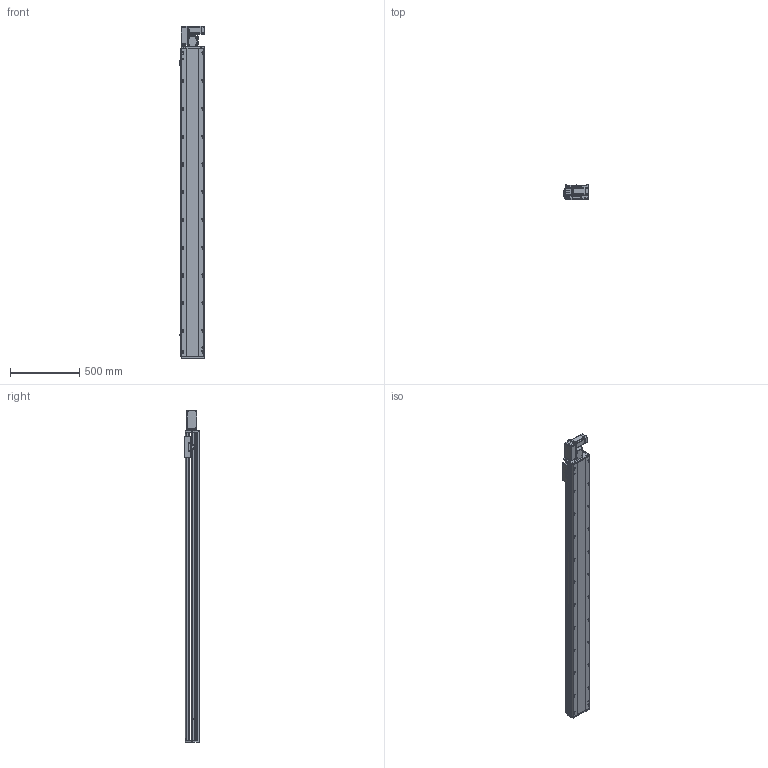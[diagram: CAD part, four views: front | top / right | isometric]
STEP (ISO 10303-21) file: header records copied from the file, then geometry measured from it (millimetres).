
FILE_DESCRIPTION (( 'STEP AP214' ), '1' );
FILE_NAME ('RTB17S-XX-1950-L-M40-C4.STEP', '2025-12-11T05:50:07', ( '' ), ( '' ), 'SwSTEP 2.0', 'SolidWorks 2018', '' );
FILE_SCHEMA (( 'AUTOMOTIVE_DESIGN' ));
Length unit declared in the file: millimetre
Products named in the file (14): RTB14-L-008-M20--电机板^RTB17S-L-皮带座装配-400W_RTB17S-XX-XX-L-M40-C4（方程式）; RTB17S-XX-1950-L-M40-C4; RTB14-L-005P--轴承塑胶压盖^RTB17S-L-皮带座装配-400W_RTB17S-XX-XX-L-M40-C4（方程式）; RTB17-R-011底座^RTB17S-XX-XX-L-M40-C4（方程式）; RTH13-BL-012感应片外置^RTB17S-XX-XX-L-M40-C4（方程式）; RTB17S-L-004丝杆螺母连接座^RTB17S-XX-XX-L-M40-C4（方程式）; RMP17S-L-014-T20--皮带座^RTB17S-L-皮带座装配-400W_RTB17S-XX-XX-L-M40-C4（方程式）; 400W伺服电机^RTB17S-XX-XX-L-M40-C4（方程式）; RTB14-L-018P^RTB17S-L-皮带座装配-400W_RTB17S-XX-XX-L-M40-C4（方程式）; RTB17S-L-001侧面板^RTB17S-XX-XX-L-M40-C4（方程式）; RTB17S-L-007上盖^RTB17S-XX-XX-L-M40-C4（方程式）; RTB14-L-017P^RTB17S-L-皮带座装配-400W_RTB17S-XX-XX-L-M40-C4（方程式）; OMRON EE-SX672 传感器^RTB17S-XX-XX-L-M40-C4（方程式）; RTB17S-L-皮带座装配-400W^RTB17S-XX-XX-L-M40-C4（方程式）
Assembly tree (16 placements, depth 3):
  RTB17S-XX-1950-L-M40-C4
    RTB17-R-011底座^RTB17S-XX-XX-L-M40-C4（方程式）
    RTB17S-L-007上盖^RTB17S-XX-XX-L-M40-C4（方程式）
    OMRON EE-SX672 传感器^RTB17S-XX-XX-L-M40-C4（方程式）  x3
    RTB17S-L-001侧面板^RTB17S-XX-XX-L-M40-C4（方程式）
    400W伺服电机^RTB17S-XX-XX-L-M40-C4（方程式）
    RTB17S-L-004丝杆螺母连接座^RTB17S-XX-XX-L-M40-C4（方程式）
    RTH13-BL-012感应片外置^RTB17S-XX-XX-L-M40-C4（方程式）
    RTB17S-L-皮带座装配-400W^RTB17S-XX-XX-L-M40-C4（方程式）
      RMP17S-L-014-T20--皮带座^RTB17S-L-皮带座装配-400W_RTB17S-XX-XX-L-M40-C4（方程式）
      RTB14-L-005P--轴承塑胶压盖^RTB17S-L-皮带座装配-400W_RTB17S-XX-XX-L-M40-C4（方程式）
      RTB14-L-008-M20--电机板^RTB17S-L-皮带座装配-400W_RTB17S-XX-XX-L-M40-C4（方程式）
      RTB14-L-017P^RTB17S-L-皮带座装配-400W_RTB17S-XX-XX-L-M40-C4（方程式）  x2
      RTB14-L-018P^RTB17S-L-皮带座装配-400W_RTB17S-XX-XX-L-M40-C4（方程式）
Bounding box: 186 x 108 x 2391 mm (x, y, z)
Volume: 20121525.5 mm3; surface area: 2342891.7 mm2
Topology: 15 solids, 15 shells, 2285 faces, 6357 edges, 4149 vertices
Faces by surface type: plane 1078, cylinder 759, bspline 301, cone 139, torus 8
Entity records: 66473 total; most frequent: CARTESIAN_POINT 18762, ORIENTED_EDGE 9558, DIRECTION 8846, EDGE_CURVE 4779, VERTEX_POINT 3137, AXIS2_PLACEMENT_3D 3067, LINE 2712, VECTOR 2712
